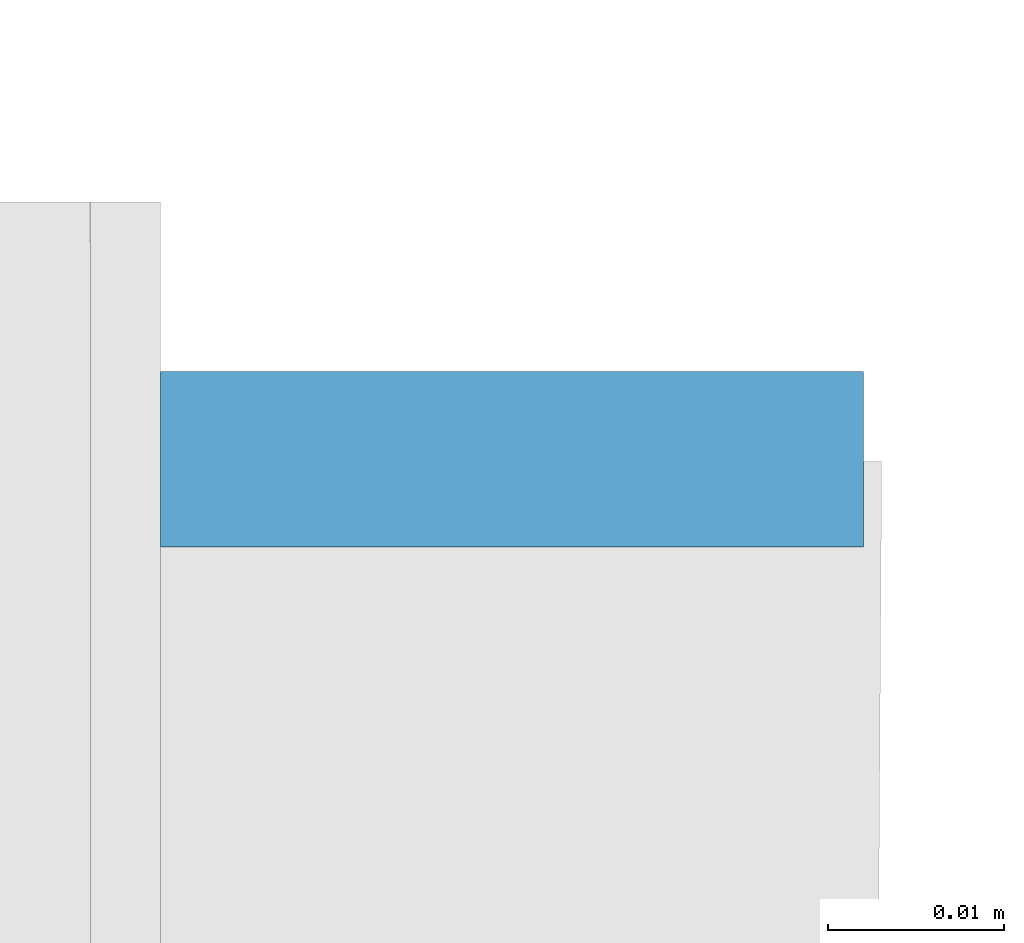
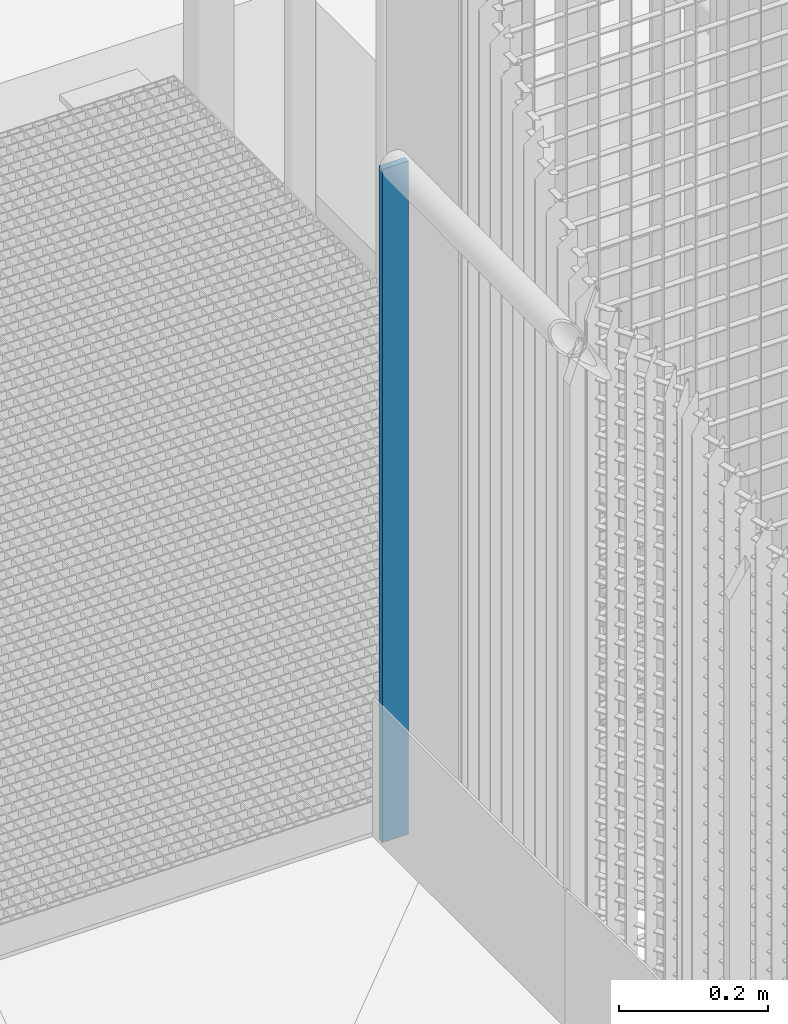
# One storey, part 85 of 1183: 1 beam, 1 element without a shape of its own.
"""IFC2X3 building model written with IfcOpenShell, lengths in millimetres."""

from ifc_helpers import new_model, si_unit, frame, origin_with_axes, origin_2d_with_axis, place, context, subcontext, project, spatial, rectangle, extrude, material, type_object, element, aggregate, save


model = new_model("IFC2X3")

# Units and contexts
model_context = context("Model", 3, precision=1e-05, world=origin_with_axes())
body_context = subcontext(model_context, "Body", "Model", "MODEL_VIEW")
ifc_project = project(units=[si_unit("LENGTHUNIT", "METRE", prefix="MILLI"), si_unit("AREAUNIT", "SQUARE_METRE"), si_unit("VOLUMEUNIT", "CUBIC_METRE"), si_unit("MASSUNIT", "GRAM", prefix="KILO"), si_unit("TIMEUNIT", "SECOND"), si_unit("PLANEANGLEUNIT", "RADIAN"), si_unit("SOLIDANGLEUNIT", "STERADIAN"), si_unit("THERMODYNAMICTEMPERATUREUNIT", "DEGREE_CELSIUS"), si_unit("LUMINOUSINTENSITYUNIT", "LUMEN")], contexts=[model_context])

# Site, building, storey
site_placement = place(None, origin_with_axes())
site = spatial("IfcSite", under=ifc_project, at=site_placement, Name="Undefined", CompositionType="ELEMENT")
building_placement = place(site_placement, origin_with_axes())
building = spatial("IfcBuilding", under=site, at=building_placement, Name="Undefined", CompositionType="ELEMENT")
storey_placement = place(building_placement, origin_with_axes())
storey = spatial("IfcBuildingStorey", under=building, at=storey_placement, Name="Undefined", CompositionType="ELEMENT", Elevation=0.0)

# Assembly, beam
assembly_placement = place(storey_placement, origin_with_axes())
assembly = element("IfcElementAssembly", 1, at=assembly_placement, inside=storey, Name="MONTANT", AssemblyPlace="NOTDEFINED", PredefinedType="NOTDEFINED")
ifc_material = material(Name="STEEL/S235JR")
beam_type = type_object("IfcBeamType", Name="PL10*40", PredefinedType="NOTDEFINED")
beam_placement = place(assembly_placement, frame((915.952120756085, 1015.37075756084, 6489.84000000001), z_axis=(-0.999999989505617, -0.000144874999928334, 0.0), x_axis=(0.0, 0.0, 1.0)))
beam = element("IfcBeam", 2, at=beam_placement, type_object=beam_type, material=ifc_material, Name="MONTANT", context=body_context, shape_type="SweptSolid", body=[
    extrude(rectangle(XDim=10.0, YDim=40.0, at=origin_2d_with_axis()), frame((1100.0, 0.0, 0.0), z_axis=(-1.0, 0.0, 0.0), x_axis=(0.0, -1.0, 0.0)), (0.0, 0.0, 1.0), 1100.0),
])
aggregate(assembly, [beam])

save(model, "model.ifc")
